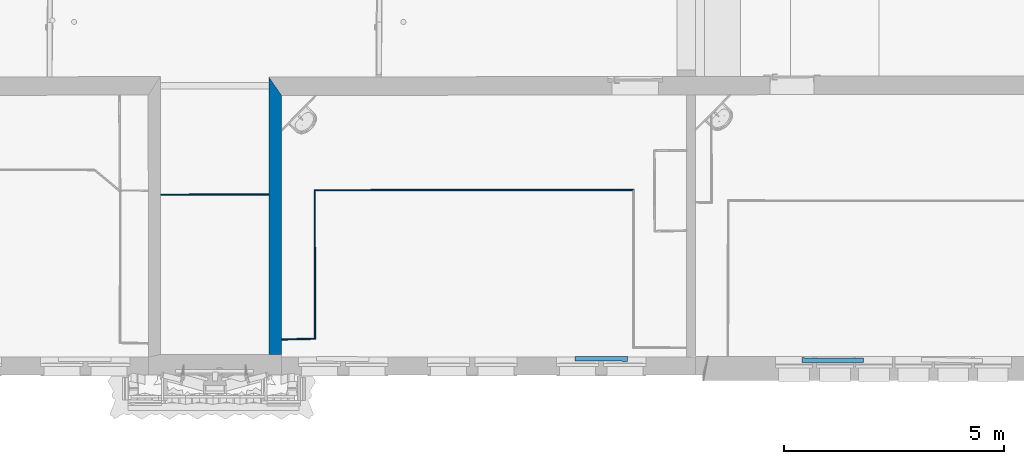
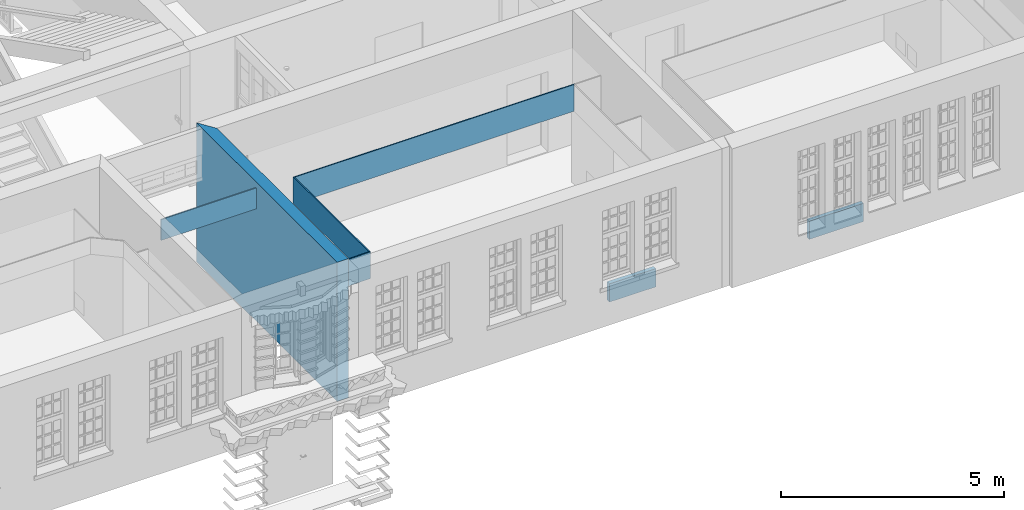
# One storey, part 30 of 158: 7 walls.
"""IFC2X3 building model written with IfcOpenShell, lengths in metres."""

from ifc_helpers import new_model, entity, si_unit, converted_unit, derived_unit, money_unit, direction, frame, origin_with_axes, place, context, subcontext, project, spatial, polyline, outline, extrude, material, layer, layer_set, layer_usage, type_object, element, save


model = new_model("IFC2X3")

# Units and contexts
model_context = context("Model", 3, precision=1e-05, world=origin_with_axes(), true_north=direction((0.0, 1.0)))
body_context = subcontext(model_context, "Body", "Model", "MODEL_VIEW")
ifc_project = project(units=[si_unit("LENGTHUNIT", "METRE"), si_unit("AREAUNIT", "SQUARE_METRE"), si_unit("VOLUMEUNIT", "CUBIC_METRE"), converted_unit("PLANEANGLEUNIT", "DEGREE", entity("IfcPlaneAngleMeasure", 0.0174532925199), si_unit("PLANEANGLEUNIT", "RADIAN"), dimensions=[0, 0, 0, 0, 0, 0, 0]), money_unit("EUR"), converted_unit("TIMEUNIT", "Year", entity("IfcTimeMeasure", 31556926.0), si_unit("TIMEUNIT", "SECOND"), dimensions=[0, 0, 1, 0, 0, 0, 0]), si_unit("MASSUNIT", "GRAM", prefix="KILO"), si_unit("THERMODYNAMICTEMPERATUREUNIT", "DEGREE_CELSIUS"), si_unit("LUMINOUSINTENSITYUNIT", "LUMEN"), si_unit("ENERGYUNIT", "JOULE", prefix="MEGA"), derived_unit("THERMALCONDUCTANCEUNIT", [(si_unit("POWERUNIT", "WATT"), 1), (si_unit("LENGTHUNIT", "METRE"), -1), (si_unit("THERMODYNAMICTEMPERATUREUNIT", "KELVIN"), -1)]), derived_unit("SPECIFICHEATCAPACITYUNIT", [(si_unit("ENERGYUNIT", "JOULE"), 1), (si_unit("MASSUNIT", "GRAM", prefix="KILO"), -1), (si_unit("THERMODYNAMICTEMPERATUREUNIT", "KELVIN"), -1)]), derived_unit("MASSDENSITYUNIT", [(si_unit("MASSUNIT", "GRAM", prefix="KILO"), 1), (si_unit("VOLUMEUNIT", "CUBIC_METRE"), -1)])], contexts=[model_context])

# Site, building, storey
site_placement = place(None, origin_with_axes())
site = spatial("IfcSite", under=ifc_project, at=site_placement, Name="Gelände", CompositionType="ELEMENT")
building_placement = place(site_placement, origin_with_axes())
building = spatial("IfcBuilding", under=site, at=building_placement, Name="Gebäude", CompositionType="ELEMENT")
storey_placement = place(building_placement, origin_with_axes())
storey = spatial("IfcBuildingStorey", under=building, at=storey_placement, Name="ERDGESCHOSS", CompositionType="ELEMENT", Elevation=0.0)

# Walls
ifc_material_1 = material(Name="05_ALLGEMEIN - TRAGENDE BAUTEILE")
ifc_layer_1 = layer(ifc_material_1, 0.29, ventilated="UNKNOWN")
ifc_layer_set_1 = layer_set([ifc_layer_1], Name="05_ALLGEMEIN - TRAGENDE BAUTEILE 0.29")
ifc_layer_usage_1 = layer_usage(ifc_layer_set_1, "AXIS2", "NEGATIVE", 0.0)
wall_type_1 = type_object("IfcWallType", Name="05_ALLGEMEIN - TRAGENDE BAUTEILE 290", PredefinedType="ELEMENTEDWALL")
wall_1_placement = place(storey_placement, frame((-5.858119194, 16.7749430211, -0.21), z_axis=(0.0, 0.0, 1.0), x_axis=(0.000177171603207, -0.999999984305, 0.0)))
element("IfcWallStandardCase", 1, at=wall_1_placement, inside=storey, type_object=wall_type_1, material=ifc_layer_usage_1, Name="Wand-035", ObjectType="ELEMENTEDWALL", context=body_context, shape_type="SweptSolid", body=[
    extrude(outline(polyline([(0.000417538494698, -0.29), (6.31004252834, -0.29), (6.310072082, 0.0), (0.420000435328, 0.0), (0.000417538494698, -0.29)])), origin_with_axes(), (0.0, 0.0, 1.0), 3.81),
])
ifc_material_2 = material(Name="43_Gipskarton")
ifc_layer_2 = layer(ifc_material_2, 0.03, ventilated="UNKNOWN")
ifc_layer_set_2 = layer_set([ifc_layer_2], Name="43_Gipskarton 0.03")
ifc_layer_usage_2 = layer_usage(ifc_layer_set_2, "AXIS2", "NEGATIVE", 0.0)
wall_type_2 = type_object("IfcWallType", Name="43_Gipskarton 30", PredefinedType="ELEMENTEDWALL")
wall_2_placement = place(storey_placement, frame((-5.0897370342, 14.1854308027, 2.58), z_axis=(0.0, 0.0, 1.0), x_axis=(0.001473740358, -0.999998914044, 0.0)))
element("IfcWallStandardCase", 2, at=wall_2_placement, inside=storey, type_object=wall_type_2, material=ifc_layer_usage_2, Name="Wand-041", ObjectType="ELEMENTEDWALL", context=body_context, shape_type="SweptSolid", body=[
    extrude(outline(polyline([(-0.0300291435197, -0.03), (3.35116325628, -0.03), (3.38054824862, 0.0), (0.0, 0.0), (-0.0300291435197, -0.03)])), origin_with_axes(), (0.0, 0.0, 1.0), 0.73),
])
ifc_layer_usage_3 = layer_usage(ifc_layer_set_2, "AXIS2", "NEGATIVE", 0.03)
wall_3_placement = place(storey_placement, frame((-5.0897370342, 14.1854308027, 2.58), z_axis=(0.0, 0.0, 1.0), x_axis=(0.999999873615, 0.000502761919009, 0.0)))
element("IfcWallStandardCase", 3, at=wall_3_placement, inside=storey, type_object=wall_type_2, material=ifc_layer_usage_3, Name="Wand-041", ObjectType="ELEMENTEDWALL", context=body_context, shape_type="SweptSolid", body=[
    extrude(outline(polyline([(0.0, 0.0), (7.22673477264, 0.0), (7.25677685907, 0.03), (-0.0300291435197, 0.03), (0.0, 0.0)])), origin_with_axes(), (0.0, 0.0, 1.0), 0.73),
])
ifc_layer_usage_4 = layer_usage(ifc_layer_set_2, "AXIS2", "NEGATIVE", 0.03)
wall_4_placement = place(storey_placement, frame((-8.89380021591, 14.0821125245, 2.87), z_axis=(0.0, 0.0, 1.0), x_axis=(0.999998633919, 0.00165292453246, 0.0)))
element("IfcWallStandardCase", 4, at=wall_4_placement, inside=storey, type_object=wall_type_2, material=ifc_layer_usage_4, Name="Wand-041", ObjectType="ELEMENTEDWALL", context=body_context, shape_type="SweptSolid", body=[
    extrude(outline(polyline([(0.28000010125, 0.0), (2.74616105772, 0.0), (2.74620533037, 0.03), (0.280025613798, 0.03), (0.28000010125, 0.0)])), origin_with_axes(), (0.0, 0.0, 1.0), 0.57),
])
ifc_layer_usage_5 = layer_usage(ifc_layer_set_2, "AXIS2", "NEGATIVE", 0.0)
wall_5_placement = place(storey_placement, frame((-5.08475498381, 10.8048862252, 2.58), z_axis=(0.0, 0.0, 1.0), x_axis=(-0.99975391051, -0.022183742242, 0.0)))
element("IfcWallStandardCase", 5, at=wall_5_placement, inside=storey, type_object=wall_type_2, material=ifc_layer_usage_5, Name="Wand-042", ObjectType="ELEMENTEDWALL", context=body_context, shape_type="SweptSolid", body=[
    extrude(outline(polyline([(0.029384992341, -0.03), (0.771833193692, -0.03), (0.77249355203, 0.0), (0.0, 0.0), (0.029384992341, -0.03)])), origin_with_axes(), (0.0, 0.0, 1.0), 0.73),
])
ifc_material_3 = material(Name="01_ALLGEMEIN - BAUTEIL")
ifc_layer_3 = layer(ifc_material_3, 0.105, ventilated="UNKNOWN")
ifc_layer_set_3 = layer_set([ifc_layer_3], Name="01_ALLGEMEIN - BAUTEIL 0.105")
ifc_layer_usage_6 = layer_usage(ifc_layer_set_3, "AXIS2", "NEGATIVE", 0.0)
wall_type_3 = type_object("IfcWallType", Name="01_ALLGEMEIN - BAUTEIL 105", PredefinedType="ELEMENTEDWALL")
wall_6_placement = place(storey_placement, frame((5.98231830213, 10.3870437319, 0.0935706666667), z_axis=(0.0, 0.0, 1.0), x_axis=(0.999996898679, -0.00249050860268, 0.0)))
element("IfcWallStandardCase", 6, at=wall_6_placement, inside=storey, type_object=wall_type_3, material=ifc_layer_usage_6, Name="Wand-035", ObjectType="ELEMENTEDWALL", context=body_context, shape_type="SweptSolid", body=[
    extrude(outline(polyline([(0.0, -0.105), (1.39998352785, -0.105), (1.39998352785, 0.0), (0.0, 0.0), (0.0, -0.105)])), origin_with_axes(), (0.0, 0.0, 1.0), 0.501014),
])
ifc_layer_usage_7 = layer_usage(ifc_layer_set_3, "AXIS2", "NEGATIVE", 0.105)
wall_7_placement = place(storey_placement, frame((2.0186333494, 10.4117849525, 0.164146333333), z_axis=(0.0, 0.0, 1.0), x_axis=(-0.999993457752, 0.00361724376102, 0.0)))
element("IfcWallStandardCase", 7, at=wall_7_placement, inside=storey, type_object=wall_type_3, material=ifc_layer_usage_7, Name="Wand-035", ObjectType="ELEMENTEDWALL", context=body_context, shape_type="SweptSolid", body=[
    extrude(outline(polyline([(0.0, 0.0), (1.19649796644, 0.0), (1.19649796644, 0.105), (0.0, 0.105), (0.0, 0.0)])), origin_with_axes(), (0.0, 0.0, 1.0), 0.501014),
])

save(model, "model.ifc")
